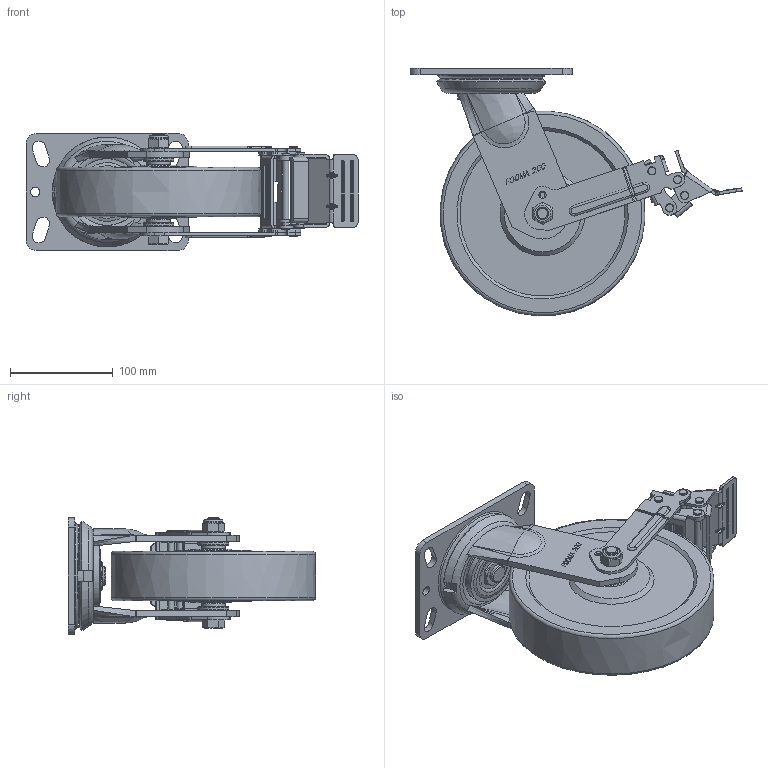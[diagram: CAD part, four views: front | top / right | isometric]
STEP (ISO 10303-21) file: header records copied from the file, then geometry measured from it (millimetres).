
FILE_DESCRIPTION(/* description */ (''),/* implementation_level */ '2;1');
FILE_NAME(/* name */ 'E:\★.DWG\PMH-SERIES\3D\홈페이지용\20180122-STEP\PMH-200-BSF-MCD.stp',/* time_stamp */ '2018-01-22T15:07:54+09:00',/* author */ ('장용하'),/* organization */ (''),/* preprocessor_version */ 'ST-DEVELOPER v16.13',/* originating_system */ 'Autodesk Inventor 2018',/* authorisation */ '');
FILE_SCHEMA (('AUTOMOTIVE_DESIGN { 1 0 10303 214 3 1 1 }'));
Products named in the file (1): PMH-200-BSF-MCD_Shrinkwrap_1
Bounding box: 323.14 x 240.41 x 114 mm (x, y, z)
Volume: 1871312.2 mm3; surface area: 244439.6 mm2
Topology: 3 solids, 3 shells, 1792 faces, 4780 edges, 3058 vertices
Faces by surface type: plane 1190, cylinder 358, bspline 133, torus 73, cone 30, sphere 8
Full cylindrical faces by diameter (mm): 4 x4, 5 x2, 6 x4, 6.2 x17, 7.7 x2, 8 x10, 9 x2, 12 x1, 18 x1, 18.5 x1, 21.667 x2, 21.867 x2, 22.9 x2, 28.133 x2, 28.333 x2, 30 x2, 35 x2, 65 x1, 90.814 x1
Entity records: 58947 total; most frequent: CARTESIAN_POINT 13228, ORIENTED_EDGE 9212, DIRECTION 8697, EDGE_CURVE 4606, LINE 3475, VECTOR 3475, VERTEX_POINT 3027, AXIS2_PLACEMENT_3D 2611
